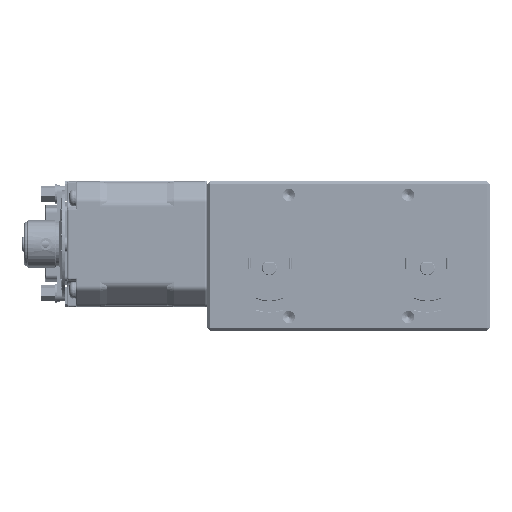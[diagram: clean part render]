
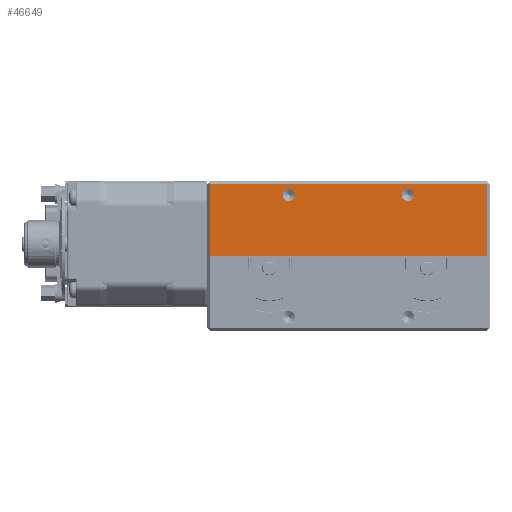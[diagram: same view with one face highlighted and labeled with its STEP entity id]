
A CAD part, front view. The second image highlights one B-rep face of the part: STEP entity #46649.
In plain terms, the highlighted planar face has unit normal (0, -1, 0).
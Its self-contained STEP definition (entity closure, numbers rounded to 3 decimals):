
#6546=CARTESIAN_POINT('',(29.567,0.0,20.5));
#6547=VERTEX_POINT('',#6546);
#6548=CARTESIAN_POINT('',(27.5,0.0,20.5));
#6549=DIRECTION('',(0.0,1.0,0.0));
#6550=DIRECTION('',(1.0,0.0,0.0));
#6551=AXIS2_PLACEMENT_3D('',#6548,#6549,#6550);
#6552=CIRCLE('',#6551,2.067);
#6553=EDGE_CURVE('',#6547,#6547,#6552,.T.);
#6583=CARTESIAN_POINT('',(69.567,0.0,20.5));
#6584=VERTEX_POINT('',#6583);
#6585=CARTESIAN_POINT('',(67.5,0.0,20.5));
#6586=DIRECTION('',(0.0,1.0,0.0));
#6587=DIRECTION('',(1.0,0.0,0.0));
#6588=AXIS2_PLACEMENT_3D('',#6585,#6586,#6587);
#6589=CIRCLE('',#6588,2.067);
#6590=EDGE_CURVE('',#6584,#6584,#6589,.T.);
#46361=CARTESIAN_POINT('',(1.,0.0,24.0));
#46362=VERTEX_POINT('',#46361);
#46419=CARTESIAN_POINT('',(94.0,0.0,24.0));
#46420=VERTEX_POINT('',#46419);
#46449=CARTESIAN_POINT('',(94.0,0.0,0.0));
#46450=VERTEX_POINT('',#46449);
#46466=CARTESIAN_POINT('',(94.0,0.0,24.0));
#46467=DIRECTION('',(0.0,0.0,-1.0));
#46468=VECTOR('',#46467,24.0);
#46469=LINE('',#46466,#46468);
#46470=EDGE_CURVE('',#46420,#46450,#46469,.T.);
#46498=CARTESIAN_POINT('',(1.0,0.0,24.0));
#46499=DIRECTION('',(1.0,0.0,0.0));
#46500=VECTOR('',#46499,93.0);
#46501=LINE('',#46498,#46500);
#46502=EDGE_CURVE('',#46362,#46420,#46501,.T.);
#46555=CARTESIAN_POINT('',(1.,0.0,0.0));
#46556=VERTEX_POINT('',#46555);
#46563=CARTESIAN_POINT('',(1.,0.0,0.0));
#46564=DIRECTION('',(0.0,0.0,1.0));
#46565=VECTOR('',#46564,24.0);
#46566=LINE('',#46563,#46565);
#46567=EDGE_CURVE('',#46556,#46362,#46566,.T.);
#46627=CARTESIAN_POINT('',(95.0,0.0,0.0));
#46628=DIRECTION('',(0.0,-1.0,0.0));
#46629=DIRECTION('',(0.0,0.0,-1.0));
#46630=AXIS2_PLACEMENT_3D('',#46627,#46628,#46629);
#46631=PLANE('',#46630);
#46632=ORIENTED_EDGE('',*,*,#46470,.F.);
#46633=ORIENTED_EDGE('',*,*,#46502,.F.);
#46634=ORIENTED_EDGE('',*,*,#46567,.F.);
#46635=CARTESIAN_POINT('',(1.,0.0,0.0));
#46636=DIRECTION('',(1.0,0.0,0.0));
#46637=VECTOR('',#46636,93.0);
#46638=LINE('',#46635,#46637);
#46639=EDGE_CURVE('',#46556,#46450,#46638,.T.);
#46640=ORIENTED_EDGE('',*,*,#46639,.T.);
#46641=EDGE_LOOP('',(#46632,#46633,#46634,#46640));
#46642=FACE_OUTER_BOUND('',#46641,.T.);
#46643=ORIENTED_EDGE('',*,*,#6553,.T.);
#46644=EDGE_LOOP('',(#46643));
#46645=FACE_BOUND('',#46644,.T.);
#46646=ORIENTED_EDGE('',*,*,#6590,.T.);
#46647=EDGE_LOOP('',(#46646));
#46648=FACE_BOUND('',#46647,.T.);
#46649=ADVANCED_FACE('',(#46642,#46645,#46648),#46631,.T.);
